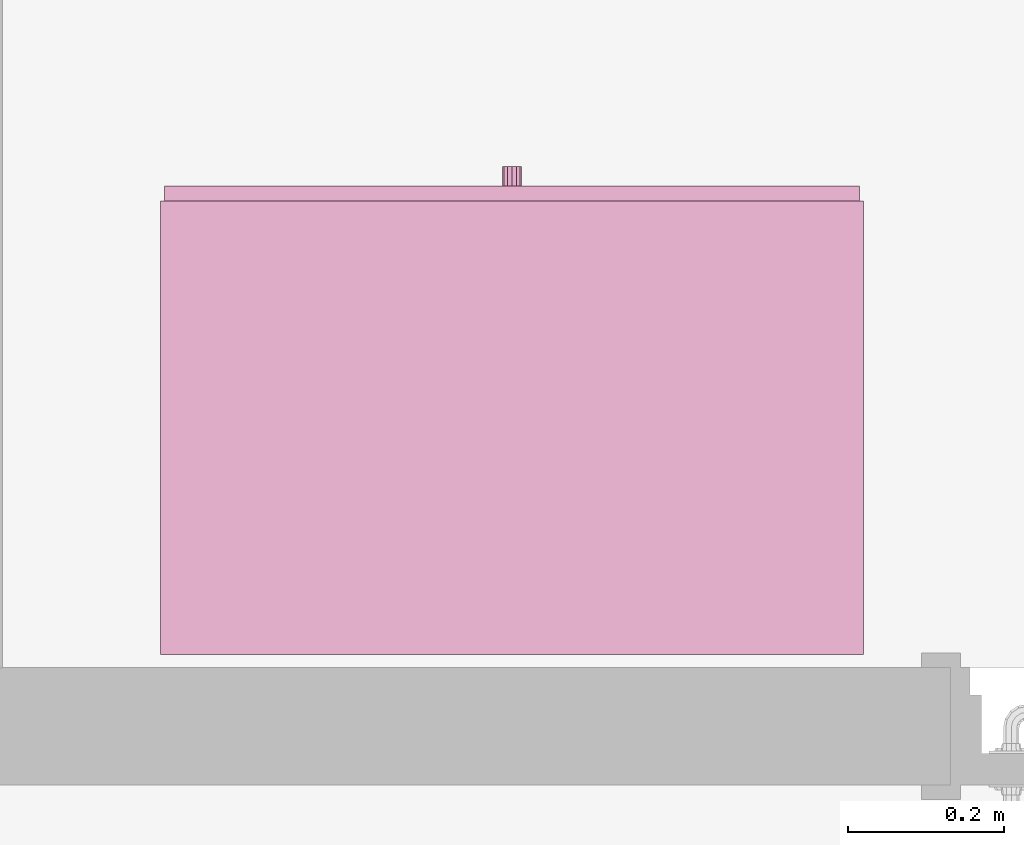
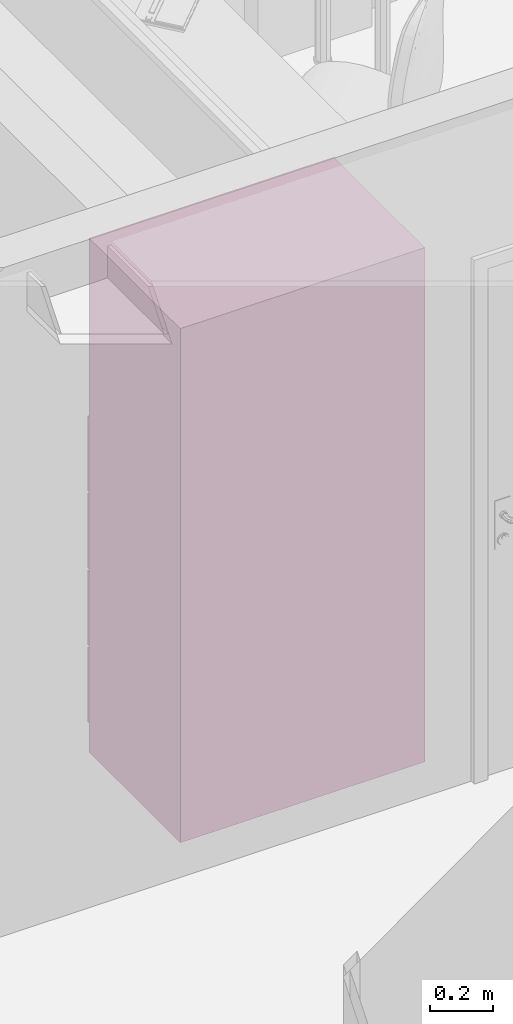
# One storey, part 108 of 127: 1 furnishing.
"""IFC2X3 building model written with IfcOpenShell, lengths in millimetres."""

from ifc_helpers import new_model, entity, si_unit, converted_unit, derived_unit, money_unit, direction, frame, origin_with_axes, place, context, subcontext, project, spatial, faceted_brep, type_object, element, save


model = new_model("IFC2X3")

# Units and contexts
model_context = context("Model", 3, precision=1e-05, world=origin_with_axes(), true_north=direction((0.0, 1.0)))
body_context = subcontext(model_context, "Body", "Model", "MODEL_VIEW")
ifc_project = project(units=[si_unit("LENGTHUNIT", "METRE", prefix="MILLI"), si_unit("AREAUNIT", "SQUARE_METRE"), si_unit("VOLUMEUNIT", "CUBIC_METRE"), converted_unit("PLANEANGLEUNIT", "DEGREE", entity("IfcPlaneAngleMeasure", 0.0174532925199), si_unit("PLANEANGLEUNIT", "RADIAN"), dimensions=[0, 0, 0, 0, 0, 0, 0]), si_unit("SOLIDANGLEUNIT", "STERADIAN"), money_unit("EUR"), converted_unit("TIMEUNIT", "Year", entity("IfcTimeMeasure", 31556926.0), si_unit("TIMEUNIT", "SECOND"), dimensions=[0, 0, 1, 0, 0, 0, 0]), si_unit("MASSUNIT", "GRAM", prefix="KILO"), si_unit("THERMODYNAMICTEMPERATUREUNIT", "DEGREE_CELSIUS"), si_unit("LUMINOUSINTENSITYUNIT", "LUMEN"), si_unit("ENERGYUNIT", "JOULE", prefix="MEGA"), derived_unit("THERMALCONDUCTANCEUNIT", [(si_unit("POWERUNIT", "WATT"), 1), (si_unit("LENGTHUNIT", "METRE"), -1), (si_unit("THERMODYNAMICTEMPERATUREUNIT", "KELVIN"), -1)]), derived_unit("SPECIFICHEATCAPACITYUNIT", [(si_unit("ENERGYUNIT", "JOULE"), 1), (si_unit("MASSUNIT", "GRAM", prefix="KILO"), -1), (si_unit("THERMODYNAMICTEMPERATUREUNIT", "KELVIN"), -1)]), derived_unit("MASSDENSITYUNIT", [(si_unit("MASSUNIT", "GRAM", prefix="KILO"), 1), (si_unit("VOLUMEUNIT", "CUBIC_METRE"), -1)])], contexts=[model_context])

# Site, building, storey
site_placement = place(None, origin_with_axes())
site = spatial("IfcSite", under=ifc_project, at=site_placement, Name="Site", CompositionType="ELEMENT")
building_placement = place(site_placement, origin_with_axes())
building = spatial("IfcBuilding", under=site, at=building_placement, Name="Building", CompositionType="ELEMENT")
storey_placement = place(building_placement, origin_with_axes())
storey = spatial("IfcBuildingStorey", under=building, at=storey_placement, Name="1 KORRUS", CompositionType="ELEMENT", Elevation=0.0)

# Furnishing
furnishing_element_type = type_object("IfcFurnishingElementType", Name="Model Element 32")
furnishing_placement = place(storey_placement, frame((20263.4263023, 68066.3690562, 0.0), z_axis=(0.0, 0.0, 1.0), x_axis=(-1.0, 0.0, 0.0)))
element("IfcFurnishingElement", 1, at=furnishing_placement, inside=storey, type_object=furnishing_element_type, Name="FU - 003", context=body_context, shape_type="Brep", body=[
    faceted_brep([(900.0, 19.0, 0.0), (0.0, 19.0, 0.0), (0.0, 600.0, 0.0), (900.0, 600.0, 0.0), (900.0, 19.0, 100.0), (0.0, 19.0, 100.0), (0.0, 600.0, 100.0), (900.0, 600.0, 100.0)], [[[0, 1, 2, 3]], [[1, 0, 4, 5]], [[2, 1, 5, 6]], [[3, 2, 6, 7]], [[0, 3, 7, 4]], [[5, 4, 7, 6]]]),
    faceted_brep([(19.0, 600.0, 119.0), (19.0, 581.0, 119.0), (19.0, 581.0, 1981.0), (19.0, 600.0, 1981.0), (881.0, 600.0, 119.0), (881.0, 581.0, 119.0), (881.0, 581.0, 1981.0), (881.0, 600.0, 1981.0)], [[[0, 1, 2, 3]], [[0, 4, 5, 1]], [[1, 5, 6, 2]], [[3, 2, 6, 7]], [[4, 0, 3, 7]], [[5, 4, 7, 6]]]),
    faceted_brep([(900.0, 19.0, 100.0), (881.0, 19.0, 100.0), (881.0, 600.0, 100.0), (900.0, 600.0, 100.0), (900.0, 19.0, 2000.0), (881.0, 19.0, 2000.0), (881.0, 600.0, 2000.0), (900.0, 600.0, 2000.0)], [[[0, 1, 2, 3]], [[1, 0, 4, 5]], [[2, 1, 5, 6]], [[3, 2, 6, 7]], [[0, 3, 7, 4]], [[5, 4, 7, 6]]]),
    faceted_brep([(19.0, 19.0, 100.0), (0.0, 19.0, 100.0), (0.0, 600.0, 100.0), (19.0, 600.0, 100.0), (19.0, 19.0, 2000.0), (0.0, 19.0, 2000.0), (0.0, 600.0, 2000.0), (19.0, 600.0, 2000.0)], [[[0, 1, 2, 3]], [[1, 0, 4, 5]], [[2, 1, 5, 6]], [[3, 2, 6, 7]], [[0, 3, 7, 4]], [[5, 4, 7, 6]]]),
    faceted_brep([(881.0, 19.0, 100.0), (19.0, 19.0, 100.0), (19.0, 600.0, 100.0), (881.0, 600.0, 100.0), (881.0, 19.0, 119.0), (19.0, 19.0, 119.0), (19.0, 600.0, 119.0), (881.0, 600.0, 119.0)], [[[0, 1, 2, 3]], [[1, 0, 4, 5]], [[2, 1, 5, 6]], [[3, 2, 6, 7]], [[0, 3, 7, 4]], [[5, 4, 7, 6]]]),
    faceted_brep([(881.0, 19.0, 1981.0), (19.0, 19.0, 1981.0), (19.0, 600.0, 1981.0), (881.0, 600.0, 1981.0), (881.0, 19.0, 2000.0), (19.0, 19.0, 2000.0), (19.0, 600.0, 2000.0), (881.0, 600.0, 2000.0)], [[[0, 1, 2, 3]], [[1, 0, 4, 5]], [[2, 1, 5, 6]], [[3, 2, 6, 7]], [[0, 3, 7, 4]], [[5, 4, 7, 6]]]),
    faceted_brep([(5.0, 19.0, 105.0), (895.0, 19.0, 105.0), (895.0, 0.0, 105.0), (5.0, 0.0, 105.0), (5.0, 19.0, 395.0), (895.0, 19.0, 395.0), (895.0, 0.0, 395.0), (5.0, 0.0, 395.0)], [[[0, 1, 2, 3]], [[0, 4, 5, 1]], [[1, 5, 6, 2]], [[3, 2, 6, 7]], [[4, 0, 3, 7]], [[5, 4, 7, 6]]]),
    faceted_brep([(460.392304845, 0.0, 244.0), (456.0, 0.0, 239.607695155), (450.0, 0.0, 238.0), (444.0, 0.0, 239.607695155), (439.607695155, 0.0, 244.0), (438.0, 0.0, 250.0), (439.607695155, 0.0, 256.0), (444.0, 0.0, 260.392304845), (450.0, 0.0, 262.0), (456.0, 0.0, 260.392304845), (460.392304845, 0.0, 256.0), (462.0, 0.0, 250.0), (460.392304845, -25.0, 244.0), (456.0, -25.0, 239.607695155), (450.0, -25.0, 238.0), (444.0, -25.0, 239.607695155), (439.607695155, -25.0, 244.0), (438.0, -25.0, 250.0), (439.607695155, -25.0, 256.0), (444.0, -25.0, 260.392304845), (450.0, -25.0, 262.0), (456.0, -25.0, 260.392304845), (460.392304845, -25.0, 256.0), (462.0, -25.0, 250.0)], [[[0, 1, 2, 3, 4, 5, 6, 7, 8, 9, 10, 11]], [[1, 0, 12, 13]], [[2, 1, 13, 14]], [[3, 2, 14, 15]], [[4, 3, 15, 16]], [[5, 4, 16, 17]], [[6, 5, 17, 18]], [[7, 6, 18, 19]], [[8, 7, 19, 20]], [[9, 8, 20, 21]], [[10, 9, 21, 22]], [[11, 10, 22, 23]], [[0, 11, 23, 12]], [[12, 23, 22, 21, 20, 19, 18, 17, 16, 15, 14, 13]]]),
    faceted_brep([(5.0, 19.0, 405.0), (895.0, 19.0, 405.0), (895.0, 0.0, 405.0), (5.0, 0.0, 405.0), (5.0, 19.0, 695.0), (895.0, 19.0, 695.0), (895.0, 0.0, 695.0), (5.0, 0.0, 695.0)], [[[0, 1, 2, 3]], [[0, 4, 5, 1]], [[1, 5, 6, 2]], [[3, 2, 6, 7]], [[4, 0, 3, 7]], [[5, 4, 7, 6]]]),
    faceted_brep([(460.392304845, 0.0, 544.0), (456.0, 0.0, 539.607695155), (450.0, 0.0, 538.0), (444.0, 0.0, 539.607695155), (439.607695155, 0.0, 544.0), (438.0, 0.0, 550.0), (439.607695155, 0.0, 556.0), (444.0, 0.0, 560.392304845), (450.0, 0.0, 562.0), (456.0, 0.0, 560.392304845), (460.392304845, 0.0, 556.0), (462.0, 0.0, 550.0), (460.392304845, -25.0, 544.0), (456.0, -25.0, 539.607695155), (450.0, -25.0, 538.0), (444.0, -25.0, 539.607695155), (439.607695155, -25.0, 544.0), (438.0, -25.0, 550.0), (439.607695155, -25.0, 556.0), (444.0, -25.0, 560.392304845), (450.0, -25.0, 562.0), (456.0, -25.0, 560.392304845), (460.392304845, -25.0, 556.0), (462.0, -25.0, 550.0)], [[[0, 1, 2, 3, 4, 5, 6, 7, 8, 9, 10, 11]], [[1, 0, 12, 13]], [[2, 1, 13, 14]], [[3, 2, 14, 15]], [[4, 3, 15, 16]], [[5, 4, 16, 17]], [[6, 5, 17, 18]], [[7, 6, 18, 19]], [[8, 7, 19, 20]], [[9, 8, 20, 21]], [[10, 9, 21, 22]], [[11, 10, 22, 23]], [[0, 11, 23, 12]], [[12, 23, 22, 21, 20, 19, 18, 17, 16, 15, 14, 13]]]),
    faceted_brep([(5.0, 19.0, 705.0), (895.0, 19.0, 705.0), (895.0, 0.0, 705.0), (5.0, 0.0, 705.0), (5.0, 19.0, 995.0), (895.0, 19.0, 995.0), (895.0, 0.0, 995.0), (5.0, 0.0, 995.0)], [[[0, 1, 2, 3]], [[0, 4, 5, 1]], [[1, 5, 6, 2]], [[3, 2, 6, 7]], [[4, 0, 3, 7]], [[5, 4, 7, 6]]]),
    faceted_brep([(460.392304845, 0.0, 844.0), (456.0, 0.0, 839.607695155), (450.0, 0.0, 838.0), (444.0, 0.0, 839.607695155), (439.607695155, 0.0, 844.0), (438.0, 0.0, 850.0), (439.607695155, 0.0, 856.0), (444.0, 0.0, 860.392304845), (450.0, 0.0, 862.0), (456.0, 0.0, 860.392304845), (460.392304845, 0.0, 856.0), (462.0, 0.0, 850.0), (460.392304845, -25.0, 844.0), (456.0, -25.0, 839.607695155), (450.0, -25.0, 838.0), (444.0, -25.0, 839.607695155), (439.607695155, -25.0, 844.0), (438.0, -25.0, 850.0), (439.607695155, -25.0, 856.0), (444.0, -25.0, 860.392304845), (450.0, -25.0, 862.0), (456.0, -25.0, 860.392304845), (460.392304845, -25.0, 856.0), (462.0, -25.0, 850.0)], [[[0, 1, 2, 3, 4, 5, 6, 7, 8, 9, 10, 11]], [[1, 0, 12, 13]], [[2, 1, 13, 14]], [[3, 2, 14, 15]], [[4, 3, 15, 16]], [[5, 4, 16, 17]], [[6, 5, 17, 18]], [[7, 6, 18, 19]], [[8, 7, 19, 20]], [[9, 8, 20, 21]], [[10, 9, 21, 22]], [[11, 10, 22, 23]], [[0, 11, 23, 12]], [[12, 23, 22, 21, 20, 19, 18, 17, 16, 15, 14, 13]]]),
    faceted_brep([(5.0, 19.0, 1005.0), (895.0, 19.0, 1005.0), (895.0, 0.0, 1005.0), (5.0, 0.0, 1005.0), (5.0, 19.0, 1295.0), (895.0, 19.0, 1295.0), (895.0, 0.0, 1295.0), (5.0, 0.0, 1295.0)], [[[0, 1, 2, 3]], [[0, 4, 5, 1]], [[1, 5, 6, 2]], [[3, 2, 6, 7]], [[4, 0, 3, 7]], [[5, 4, 7, 6]]]),
    faceted_brep([(460.392304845, 0.0, 1144.0), (456.0, 0.0, 1139.60769515), (450.0, 0.0, 1138.0), (444.0, 0.0, 1139.60769515), (439.607695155, 0.0, 1144.0), (438.0, 0.0, 1150.0), (439.607695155, 0.0, 1156.0), (444.0, 0.0, 1160.39230485), (450.0, 0.0, 1162.0), (456.0, 0.0, 1160.39230485), (460.392304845, 0.0, 1156.0), (462.0, 0.0, 1150.0), (460.392304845, -25.0, 1144.0), (456.0, -25.0, 1139.60769515), (450.0, -25.0, 1138.0), (444.0, -25.0, 1139.60769515), (439.607695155, -25.0, 1144.0), (438.0, -25.0, 1150.0), (439.607695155, -25.0, 1156.0), (444.0, -25.0, 1160.39230485), (450.0, -25.0, 1162.0), (456.0, -25.0, 1160.39230485), (460.392304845, -25.0, 1156.0), (462.0, -25.0, 1150.0)], [[[0, 1, 2, 3, 4, 5, 6, 7, 8, 9, 10, 11]], [[1, 0, 12, 13]], [[2, 1, 13, 14]], [[3, 2, 14, 15]], [[4, 3, 15, 16]], [[5, 4, 16, 17]], [[6, 5, 17, 18]], [[7, 6, 18, 19]], [[8, 7, 19, 20]], [[9, 8, 20, 21]], [[10, 9, 21, 22]], [[11, 10, 22, 23]], [[0, 11, 23, 12]], [[12, 23, 22, 21, 20, 19, 18, 17, 16, 15, 14, 13]]]),
    faceted_brep([(19.0, 19.0, 390.5), (881.0, 19.0, 390.5), (881.0, 19.0, 409.5), (19.0, 19.0, 409.5), (19.0, 581.0, 390.5), (881.0, 581.0, 390.5), (881.0, 581.0, 409.5), (19.0, 581.0, 409.5)], [[[0, 1, 2, 3]], [[0, 4, 5, 1]], [[1, 5, 6, 2]], [[3, 2, 6, 7]], [[4, 0, 3, 7]], [[5, 4, 7, 6]]]),
    faceted_brep([(19.0, 19.0, 690.5), (881.0, 19.0, 690.5), (881.0, 19.0, 709.5), (19.0, 19.0, 709.5), (19.0, 581.0, 690.5), (881.0, 581.0, 690.5), (881.0, 581.0, 709.5), (19.0, 581.0, 709.5)], [[[0, 1, 2, 3]], [[0, 4, 5, 1]], [[1, 5, 6, 2]], [[3, 2, 6, 7]], [[4, 0, 3, 7]], [[5, 4, 7, 6]]]),
    faceted_brep([(19.0, 19.0, 990.5), (881.0, 19.0, 990.5), (881.0, 19.0, 1009.5), (19.0, 19.0, 1009.5), (19.0, 581.0, 990.5), (881.0, 581.0, 990.5), (881.0, 581.0, 1009.5), (19.0, 581.0, 1009.5)], [[[0, 1, 2, 3]], [[0, 4, 5, 1]], [[1, 5, 6, 2]], [[3, 2, 6, 7]], [[4, 0, 3, 7]], [[5, 4, 7, 6]]]),
    faceted_brep([(19.0, 19.0, 1290.5), (881.0, 19.0, 1290.5), (881.0, 19.0, 1309.5), (19.0, 19.0, 1309.5), (19.0, 581.0, 1290.5), (881.0, 581.0, 1290.5), (881.0, 581.0, 1309.5), (19.0, 581.0, 1309.5)], [[[0, 1, 2, 3]], [[0, 4, 5, 1]], [[1, 5, 6, 2]], [[3, 2, 6, 7]], [[4, 0, 3, 7]], [[5, 4, 7, 6]]]),
    faceted_brep([(881.0, 19.0, 1463.125), (19.0, 19.0, 1463.125), (19.0, 581.0, 1463.125), (881.0, 581.0, 1463.125), (881.0, 19.0, 1482.125), (19.0, 19.0, 1482.125), (19.0, 581.0, 1482.125), (881.0, 581.0, 1482.125)], [[[0, 1, 2, 3]], [[1, 0, 4, 5]], [[2, 1, 5, 6]], [[3, 2, 6, 7]], [[0, 3, 7, 4]], [[5, 4, 7, 6]]]),
    faceted_brep([(881.0, 19.0, 1635.75), (19.0, 19.0, 1635.75), (19.0, 581.0, 1635.75), (881.0, 581.0, 1635.75), (881.0, 19.0, 1654.75), (19.0, 19.0, 1654.75), (19.0, 581.0, 1654.75), (881.0, 581.0, 1654.75)], [[[0, 1, 2, 3]], [[1, 0, 4, 5]], [[2, 1, 5, 6]], [[3, 2, 6, 7]], [[0, 3, 7, 4]], [[5, 4, 7, 6]]]),
    faceted_brep([(881.0, 19.0, 1808.375), (19.0, 19.0, 1808.375), (19.0, 581.0, 1808.375), (881.0, 581.0, 1808.375), (881.0, 19.0, 1827.375), (19.0, 19.0, 1827.375), (19.0, 581.0, 1827.375), (881.0, 581.0, 1827.375)], [[[0, 1, 2, 3]], [[1, 0, 4, 5]], [[2, 1, 5, 6]], [[3, 2, 6, 7]], [[0, 3, 7, 4]], [[5, 4, 7, 6]]]),
])

save(model, "model.ifc")
